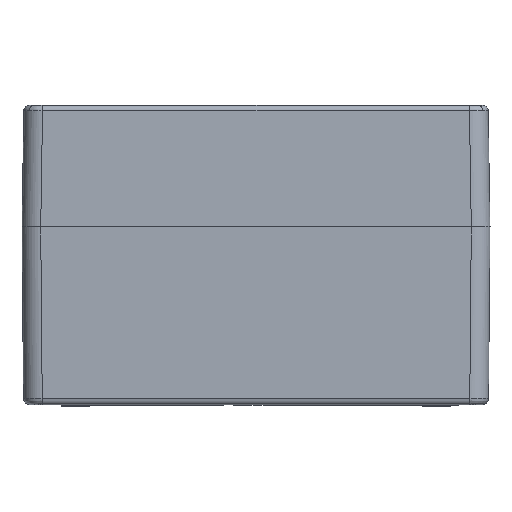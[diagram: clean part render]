
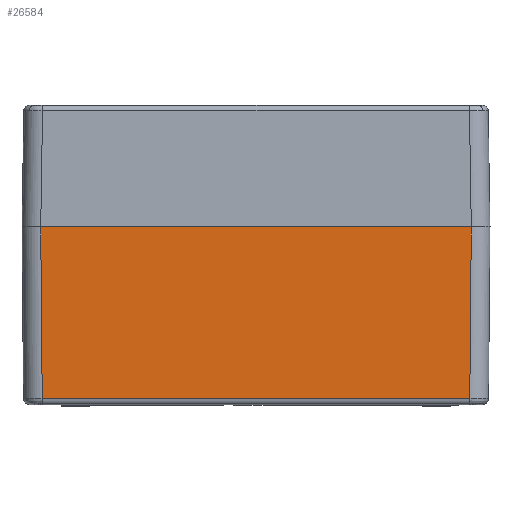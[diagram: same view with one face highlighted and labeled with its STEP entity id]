
A CAD part, left-side view. The second image highlights one B-rep face of the part: STEP entity #26584.
In plain terms, the highlighted planar face has unit normal (-1, 0, -0.009).
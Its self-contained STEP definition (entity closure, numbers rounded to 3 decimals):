
#167 = EDGE_CURVE ( 'NONE', #21548, #14222, #7435, .T. ) ;
#1566 = LINE ( 'NONE', #36968, #27731 ) ;
#4742 = PLANE ( 'NONE',  #36264 ) ;
#4776 = CARTESIAN_POINT ( 'NONE',  ( -127.5, -115., 0. ) ) ;
#6227 = DIRECTION ( 'NONE',  ( 0., 1., 0. ) ) ;
#7435 = LINE ( 'NONE', #27527, #21244 ) ;
#8548 = LINE ( 'NONE', #30265, #26136 ) ;
#11791 = CARTESIAN_POINT ( 'NONE',  ( -126.701, 114.202, -91.531 ) ) ;
#14222 = VERTEX_POINT ( 'NONE', #32990 ) ;
#15467 = DIRECTION ( 'NONE',  ( -0.009, 0.009, 1. ) ) ;
#15998 = ORIENTED_EDGE ( 'NONE', *, *, #28799, .F. ) ;
#16609 = EDGE_CURVE ( 'NONE', #33060, #28635, #1566, .T. ) ;
#16832 = DIRECTION ( 'NONE',  ( -1., 0., -0.009 ) ) ;
#18715 = EDGE_CURVE ( 'NONE', #28635, #14222, #32767, .T. ) ;
#19649 = EDGE_LOOP ( 'NONE', ( #32463, #22078, #28397, #15998 ) ) ;
#21244 = VECTOR ( 'NONE', #15467, 1000. ) ;
#21548 = VERTEX_POINT ( 'NONE', #11791 ) ;
#22078 = ORIENTED_EDGE ( 'NONE', *, *, #18715, .T. ) ;
#22102 = DIRECTION ( 'NONE',  ( 0., 1., 0. ) ) ;
#23079 = CARTESIAN_POINT ( 'NONE',  ( -127.5, -125., 0. ) ) ;
#24709 = VECTOR ( 'NONE', #22102, 1000. ) ;
#26136 = VECTOR ( 'NONE', #6227, 1000. ) ;
#26584 = ADVANCED_FACE ( 'NONE', ( #38674 ), #4742, .T. ) ;
#27527 = CARTESIAN_POINT ( 'NONE',  ( -127.482, 114.982, -2.094 ) ) ;
#27731 = VECTOR ( 'NONE', #34290, 1000. ) ;
#28397 = ORIENTED_EDGE ( 'NONE', *, *, #167, .F. ) ;
#28635 = VERTEX_POINT ( 'NONE', #4776 ) ;
#28799 = EDGE_CURVE ( 'NONE', #33060, #21548, #8548, .T. ) ;
#29049 = DIRECTION ( 'NONE',  ( -0.009, 0., 1. ) ) ;
#30265 = CARTESIAN_POINT ( 'NONE',  ( -126.701, 125., -91.531 ) ) ;
#32463 = ORIENTED_EDGE ( 'NONE', *, *, #16609, .T. ) ;
#32767 = LINE ( 'NONE', #37566, #24709 ) ;
#32990 = CARTESIAN_POINT ( 'NONE',  ( -127.5, 115., 0. ) ) ;
#33060 = VERTEX_POINT ( 'NONE', #35883 ) ;
#34290 = DIRECTION ( 'NONE',  ( -0.009, -0.009, 1. ) ) ;
#35883 = CARTESIAN_POINT ( 'NONE',  ( -126.701, -114.202, -91.531 ) ) ;
#36264 = AXIS2_PLACEMENT_3D ( 'NONE', #23079, #16832, #29049 ) ;
#36968 = CARTESIAN_POINT ( 'NONE',  ( -126.701, -114.202, -91.531 ) ) ;
#37566 = CARTESIAN_POINT ( 'NONE',  ( -127.5, -125., 0. ) ) ;
#38674 = FACE_OUTER_BOUND ( 'NONE', #19649, .T. ) ;
